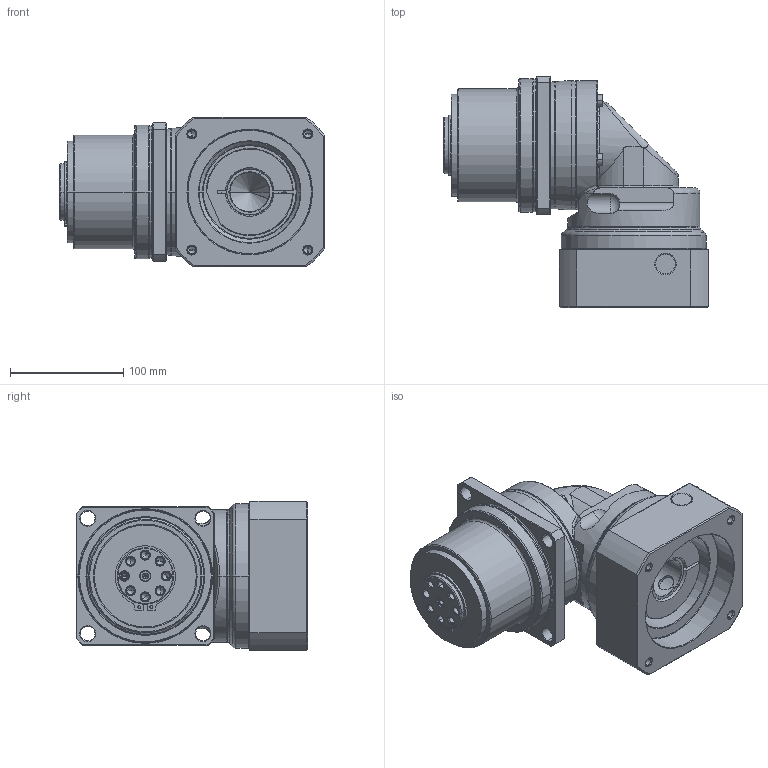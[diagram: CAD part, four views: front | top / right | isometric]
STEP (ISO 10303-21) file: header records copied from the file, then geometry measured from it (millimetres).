
FILE_DESCRIPTION((''),'2;1');
FILE_NAME('PLR120_1ST_35-P0411800101_ASM','2016-06-21T',('d00435'),(''),'PRO/ENGINEER BY PARAMETRIC TECHNOLOGY CORPORATION, 2008410','PRO/ENGINEER BY PARAMETRIC TECHNOLOGY CORPORATION, 2008410','');
FILE_SCHEMA(('CONFIG_CONTROL_DESIGN'));
Length unit declared in the file: millimetre
Products named in the file (10): P0272400001; P1353400001; P0366400001; 22802000029; P1017410001; P1350400401; P0411800101; P0503800010; P0713400401; PLR120_1ST_35-P0411800101_ASM
Assembly tree (9 placements, depth 2):
  PLR120_1ST_35-P0411800101_ASM
    P0272400001
    P1353400001
    P0366400001
    22802000029
    P1017410001
    P1350400401
    P0411800101
    P0503800010
    P0713400401
Bounding box: 234 x 204.5 x 132 mm (x, y, z)
Volume: 2366310.5 mm3; surface area: 360071.8 mm2
Topology: 10 solids, 27 shells, 583 faces, 1374 edges, 831 vertices
Faces by surface type: cylinder 205, cone 150, plane 120, torus 76, bspline 30, sphere 2
Entity records: 19837 total; most frequent: CARTESIAN_POINT 6259, DIRECTION 3004, ORIENTED_EDGE 2612, EDGE_CURVE 1340, AXIS2_PLACEMENT_3D 1273, VERTEX_POINT 831, CIRCLE 693, EDGE_LOOP 669
